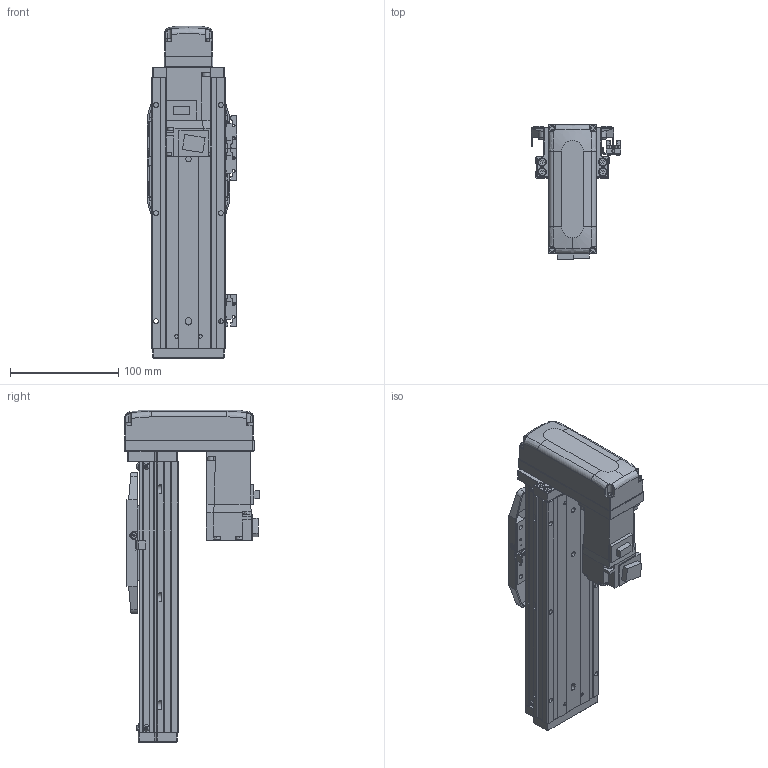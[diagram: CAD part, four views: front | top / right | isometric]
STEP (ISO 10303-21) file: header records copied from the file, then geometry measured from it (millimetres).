
FILE_DESCRIPTION (( 'STEP AP203' ), '1' );
FILE_NAME ('CTHA60-100-BM-M10-C4L.step', '2022-03-19T06:16:42', ( '微软用户' ), ( '微软中国' ), 'SwSTEP 2.0', 'SolidWorks 2020', '' );
FILE_SCHEMA (( 'CONFIG_CONTROL_DESIGN' ));
Length unit declared in the file: millimetre
Products named in the file (18): CTHA60-004; GBT77-2000 M3×3; CTHA60-006-1; CTHA60-005; GBT 70.1-M3℅6; CTHA60-033; GB¨uT 70.2-M3¡Á6_M3¡Á6; GBT 70.3-M3℅6; CTHA60-100-BM-M10-C4L; EE_SX911P_R; CTHA60-016; CTHA60-017; HG-KR13（三菱）; CTHA60-021; CTHA60-002; CTHA60-001_250; GBT 70.1-M4×16; CTHA60-031
Assembly tree (54 placements, depth 2):
  CTHA60-100-BM-M10-C4L
    CTHA60-001_250
    CTHA60-004
    CTHA60-005
    GB¨uT 70.2-M3¡Á6_M3¡Á6  x10
    EE_SX911P_R  x3
    CTHA60-017  x3
    CTHA60-021  x2
    GBT 70.1-M4×16  x10
    GBT77-2000 M3×3  x6
    GBT 70.1-M3℅6  x6
    GBT 70.3-M3℅6  x4
    CTHA60-016  x2
    HG-KR13（三菱）
    CTHA60-002
    CTHA60-031
    CTHA60-006-1
    CTHA60-033
Bounding box: 83.12 x 125.3 x 307 mm (x, y, z)
Volume: 695028.4 mm3; surface area: 230590.4 mm2
Topology: 56 solids, 56 shells, 2434 faces, 5813 edges, 3577 vertices
Faces by surface type: plane 1401, cylinder 553, cone 332, torus 92, bspline 32, sphere 24
Entity records: 42427 total; most frequent: CARTESIAN_POINT 8250, DIRECTION 6506, ORIENTED_EDGE 6434, EDGE_CURVE 3217, LINE 2274, VECTOR 2274, AXIS2_PLACEMENT_3D 2116, VERTEX_POINT 2036
